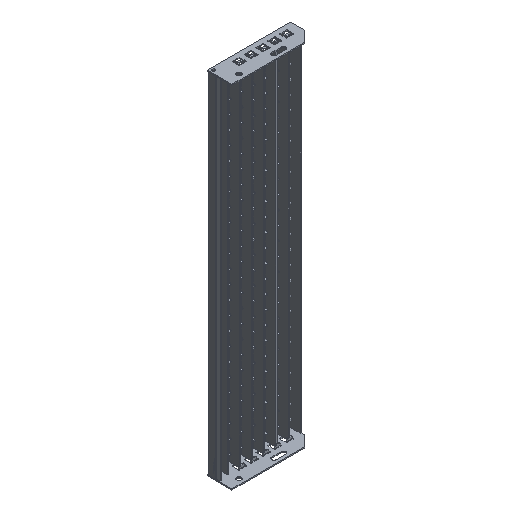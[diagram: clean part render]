
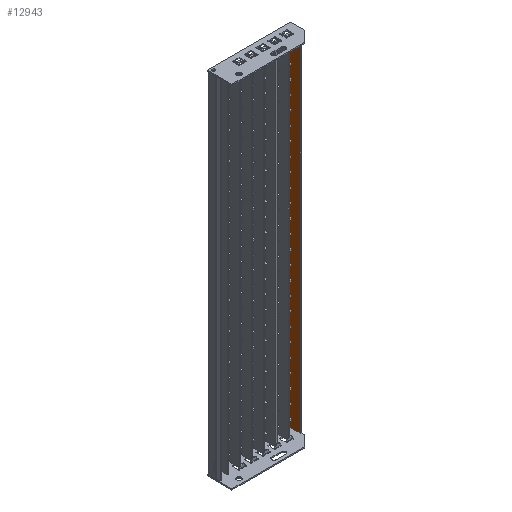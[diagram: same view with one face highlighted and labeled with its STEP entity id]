
A CAD part, isometric view. The second image highlights one B-rep face of the part: STEP entity #12943.
In plain terms, the highlighted planar face has unit normal (-1, 0, 0).
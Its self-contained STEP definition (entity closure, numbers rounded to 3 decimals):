
#1567=FACE_OUTER_BOUND('',#2402,.T.);
#2402=EDGE_LOOP('',(#11911,#11912,#11913,#11914));
#3539=LINE('',#26178,#4682);
#3540=LINE('',#26180,#4683);
#3541=LINE('',#26182,#4684);
#3542=LINE('',#26183,#4685);
#4682=VECTOR('',#18182,10.);
#4683=VECTOR('',#18183,10.);
#4684=VECTOR('',#18184,10.);
#4685=VECTOR('',#18185,10.);
#6470=VERTEX_POINT('',#26176);
#6471=VERTEX_POINT('',#26177);
#6472=VERTEX_POINT('',#26179);
#6473=VERTEX_POINT('',#26181);
#8285=EDGE_CURVE('',#6470,#6471,#3539,.T.);
#8286=EDGE_CURVE('',#6472,#6471,#3540,.T.);
#8287=EDGE_CURVE('',#6472,#6473,#3541,.T.);
#8288=EDGE_CURVE('',#6473,#6470,#3542,.T.);
#11911=ORIENTED_EDGE('',*,*,#8285,.T.);
#11912=ORIENTED_EDGE('',*,*,#8286,.F.);
#11913=ORIENTED_EDGE('',*,*,#8287,.T.);
#11914=ORIENTED_EDGE('',*,*,#8288,.T.);
#12255=PLANE('',#14426);
#12943=ADVANCED_FACE('',(#1567),#12255,.T.);
#14426=AXIS2_PLACEMENT_3D('',#26175,#18180,#18181);
#18180=DIRECTION('center_axis',(-1.,0.,0.));
#18181=DIRECTION('ref_axis',(0.,0.,1.));
#18182=DIRECTION('',(0.,0.,-1.));
#18183=DIRECTION('',(0.,1.,0.));
#18184=DIRECTION('',(0.,0.,1.));
#18185=DIRECTION('',(0.,1.,0.));
#26175=CARTESIAN_POINT('Origin',(-3.,0.,0.));
#26176=CARTESIAN_POINT('',(-3.,994.,0.));
#26177=CARTESIAN_POINT('',(-3.,994.,-30.));
#26178=CARTESIAN_POINT('',(-3.,994.,-30.));
#26179=CARTESIAN_POINT('',(-3.,0.,-30.));
#26180=CARTESIAN_POINT('',(-3.,0.,-30.));
#26181=CARTESIAN_POINT('',(-3.,0.,0.));
#26182=CARTESIAN_POINT('',(-3.,0.,-30.));
#26183=CARTESIAN_POINT('',(-3.,0.,0.));
